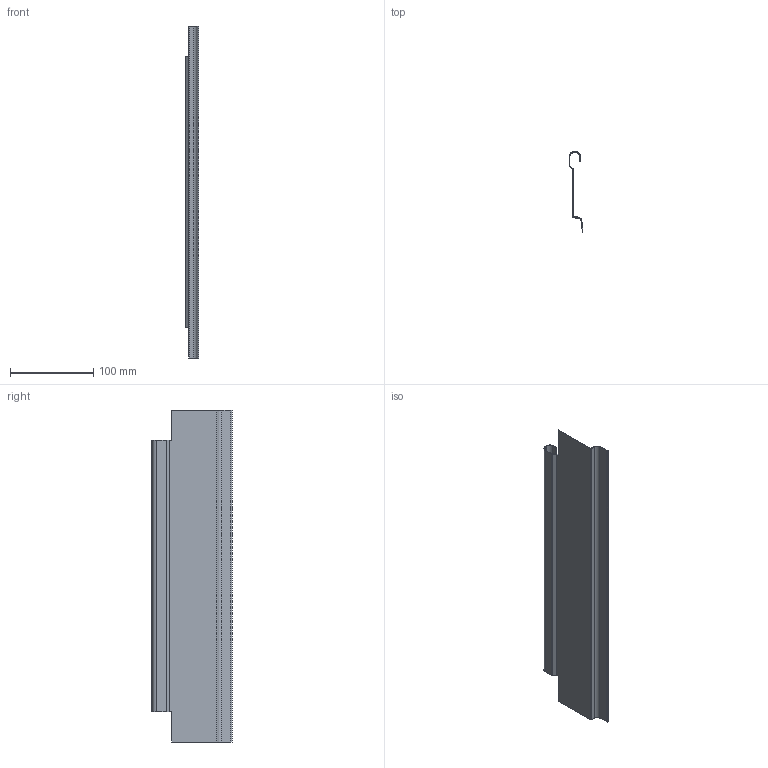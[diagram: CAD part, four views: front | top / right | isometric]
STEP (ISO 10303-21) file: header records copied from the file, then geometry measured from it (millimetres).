
FILE_DESCRIPTION (( 'STEP AP214' ), '1' );
FILE_NAME ('_Solowing NL430.step', '2010-07-14T13:31:55', ( 'grass' ), ( '' ), 'SwSTEP 2.0', 'SolidWorks 2010', '' );
FILE_SCHEMA (( 'AUTOMOTIVE_DESIGN' ));
Length unit declared in the file: millimetre
Products named in the file (1): _Solowing NL430
Bounding box: 16.3 x 96 x 398 mm (x, y, z)
Volume: 36876.8 mm3; surface area: 93027 mm2
Topology: 1 solids, 1 shells, 46 faces, 108 edges, 64 vertices
Faces by surface type: plane 36, cylinder 10
Entity records: 1314 total; most frequent: DIRECTION 222, CARTESIAN_POINT 219, ORIENTED_EDGE 216, EDGE_CURVE 108, VECTOR 88, LINE 88, AXIS2_PLACEMENT_3D 67, VERTEX_POINT 64
